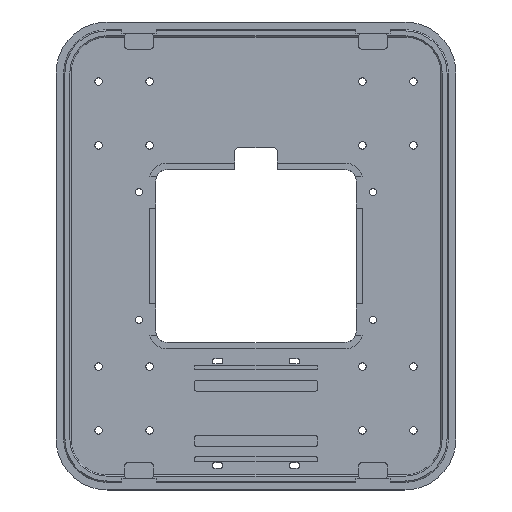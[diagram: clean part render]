
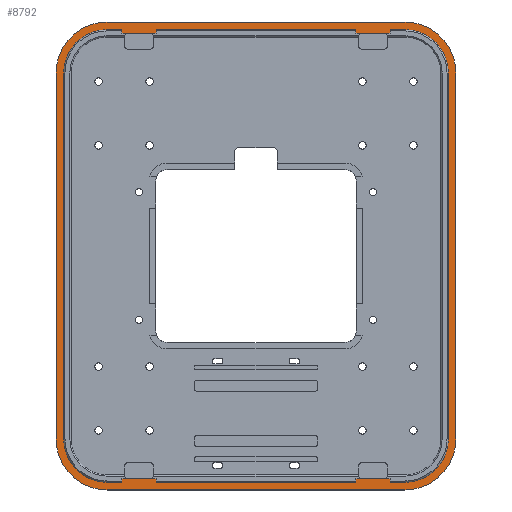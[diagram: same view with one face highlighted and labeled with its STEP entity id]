
A CAD part, top view. The second image highlights one B-rep face of the part: STEP entity #8792.
In plain terms, the highlighted planar face has unit normal (0, 0, 1).
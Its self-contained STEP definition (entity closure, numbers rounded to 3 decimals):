
#22 = VERTEX_POINT('',#23);
#23 = CARTESIAN_POINT('',(70.,-106.4,7.));
#31 = EDGE_CURVE('',#22,#32,#34,.T.);
#32 = VERTEX_POINT('',#33);
#33 = CARTESIAN_POINT('',(63.,-106.4,7.));
#34 = LINE('',#35,#36);
#35 = CARTESIAN_POINT('',(-92.2,-106.4,7.));
#36 = VECTOR('',#37,1.);
#37 = DIRECTION('',(-1.,0.,0.));
#62 = VERTEX_POINT('',#63);
#63 = CARTESIAN_POINT('',(90.4,-86.,7.));
#71 = EDGE_CURVE('',#22,#62,#72,.T.);
#72 = CIRCLE('',#73,20.4);
#73 = AXIS2_PLACEMENT_3D('',#74,#75,#76);
#74 = CARTESIAN_POINT('',(70.,-86.,7.));
#75 = DIRECTION('',(0.,0.,1.));
#76 = DIRECTION('',(1.,0.,0.));
#95 = EDGE_CURVE('',#62,#96,#98,.T.);
#96 = VERTEX_POINT('',#97);
#97 = CARTESIAN_POINT('',(90.4,86.,7.));
#98 = LINE('',#99,#100);
#99 = CARTESIAN_POINT('',(90.4,-108.2,7.));
#100 = VECTOR('',#101,1.);
#101 = DIRECTION('',(0.,1.,0.));
#126 = EDGE_CURVE('',#96,#127,#129,.T.);
#127 = VERTEX_POINT('',#128);
#128 = CARTESIAN_POINT('',(70.,106.4,7.));
#129 = CIRCLE('',#130,20.4);
#130 = AXIS2_PLACEMENT_3D('',#131,#132,#133);
#131 = CARTESIAN_POINT('',(70.,86.,7.));
#132 = DIRECTION('',(0.,0.,1.));
#133 = DIRECTION('',(1.,0.,0.));
#159 = EDGE_CURVE('',#127,#160,#162,.T.);
#160 = VERTEX_POINT('',#161);
#161 = CARTESIAN_POINT('',(63.,106.4,7.));
#162 = LINE('',#163,#164);
#163 = CARTESIAN_POINT('',(-92.2,106.4,7.));
#164 = VECTOR('',#165,1.);
#165 = DIRECTION('',(-1.,0.,0.));
#190 = VERTEX_POINT('',#191);
#191 = CARTESIAN_POINT('',(63.,104.8,7.));
#199 = EDGE_CURVE('',#190,#160,#200,.T.);
#200 = LINE('',#201,#202);
#201 = CARTESIAN_POINT('',(63.,104.8,7.));
#202 = VECTOR('',#203,1.);
#203 = DIRECTION('',(0.,1.,0.));
#260 = VERTEX_POINT('',#261);
#261 = CARTESIAN_POINT('',(63.,-104.8,7.));
#277 = EDGE_CURVE('',#32,#260,#278,.T.);
#278 = LINE('',#279,#280);
#279 = CARTESIAN_POINT('',(63.,-116.8,7.));
#280 = VECTOR('',#281,1.);
#281 = DIRECTION('',(0.,1.,0.));
#472 = VERTEX_POINT('',#473);
#473 = CARTESIAN_POINT('',(-47.,-104.8,7.));
#498 = VERTEX_POINT('',#499);
#499 = CARTESIAN_POINT('',(-47.,-106.4,7.));
#505 = EDGE_CURVE('',#498,#472,#506,.T.);
#506 = LINE('',#507,#508);
#507 = CARTESIAN_POINT('',(-47.,-116.8,7.));
#508 = VECTOR('',#509,1.);
#509 = DIRECTION('',(0.,1.,0.));
#522 = VERTEX_POINT('',#523);
#523 = CARTESIAN_POINT('',(47.,-106.4,7.));
#529 = EDGE_CURVE('',#522,#498,#530,.T.);
#530 = LINE('',#531,#532);
#531 = CARTESIAN_POINT('',(-92.2,-106.4,7.));
#532 = VECTOR('',#533,1.);
#533 = DIRECTION('',(-1.,0.,0.));
#618 = VERTEX_POINT('',#619);
#619 = CARTESIAN_POINT('',(47.,106.4,7.));
#625 = EDGE_CURVE('',#618,#626,#628,.T.);
#626 = VERTEX_POINT('',#627);
#627 = CARTESIAN_POINT('',(-47.,106.4,7.));
#628 = LINE('',#629,#630);
#629 = CARTESIAN_POINT('',(-92.2,106.4,7.));
#630 = VECTOR('',#631,1.);
#631 = DIRECTION('',(-1.,0.,0.));
#656 = VERTEX_POINT('',#657);
#657 = CARTESIAN_POINT('',(-47.,104.8,7.));
#665 = EDGE_CURVE('',#656,#626,#666,.T.);
#666 = LINE('',#667,#668);
#667 = CARTESIAN_POINT('',(-47.,104.8,7.));
#668 = VECTOR('',#669,1.);
#669 = DIRECTION('',(0.,1.,0.));
#695 = VERTEX_POINT('',#696);
#696 = CARTESIAN_POINT('',(47.,104.8,7.));
#704 = EDGE_CURVE('',#695,#618,#705,.T.);
#705 = LINE('',#706,#707);
#706 = CARTESIAN_POINT('',(47.,104.8,7.));
#707 = VECTOR('',#708,1.);
#708 = DIRECTION('',(0.,1.,0.));
#804 = VERTEX_POINT('',#805);
#805 = CARTESIAN_POINT('',(-63.,106.4,7.));
#811 = EDGE_CURVE('',#804,#812,#814,.T.);
#812 = VERTEX_POINT('',#813);
#813 = CARTESIAN_POINT('',(-70.,106.4,7.));
#814 = LINE('',#815,#816);
#815 = CARTESIAN_POINT('',(-92.2,106.4,7.));
#816 = VECTOR('',#817,1.);
#817 = DIRECTION('',(-1.,0.,0.));
#842 = VERTEX_POINT('',#843);
#843 = CARTESIAN_POINT('',(-90.4,86.,7.));
#851 = EDGE_CURVE('',#812,#842,#852,.T.);
#852 = CIRCLE('',#853,20.4);
#853 = AXIS2_PLACEMENT_3D('',#854,#855,#856);
#854 = CARTESIAN_POINT('',(-70.,86.,7.));
#855 = DIRECTION('',(0.,0.,1.));
#856 = DIRECTION('',(-1.,0.,0.));
#875 = VERTEX_POINT('',#876);
#876 = CARTESIAN_POINT('',(-90.4,-86.,7.));
#884 = EDGE_CURVE('',#875,#842,#885,.T.);
#885 = LINE('',#886,#887);
#886 = CARTESIAN_POINT('',(-90.4,-108.2,7.));
#887 = VECTOR('',#888,1.);
#888 = DIRECTION('',(0.,1.,0.));
#906 = EDGE_CURVE('',#875,#907,#909,.T.);
#907 = VERTEX_POINT('',#908);
#908 = CARTESIAN_POINT('',(-70.,-106.4,7.));
#909 = CIRCLE('',#910,20.4);
#910 = AXIS2_PLACEMENT_3D('',#911,#912,#913);
#911 = CARTESIAN_POINT('',(-70.,-86.,7.));
#912 = DIRECTION('',(0.,0.,1.));
#913 = DIRECTION('',(-1.,0.,0.));
#941 = VERTEX_POINT('',#942);
#942 = CARTESIAN_POINT('',(-63.,-106.4,7.));
#948 = EDGE_CURVE('',#941,#907,#949,.T.);
#949 = LINE('',#950,#951);
#950 = CARTESIAN_POINT('',(-92.2,-106.4,7.));
#951 = VECTOR('',#952,1.);
#952 = DIRECTION('',(-1.,0.,0.));
#970 = VERTEX_POINT('',#971);
#971 = CARTESIAN_POINT('',(-63.,104.8,7.));
#979 = EDGE_CURVE('',#970,#804,#980,.T.);
#980 = LINE('',#981,#982);
#981 = CARTESIAN_POINT('',(-63.,104.8,7.));
#982 = VECTOR('',#983,1.);
#983 = DIRECTION('',(0.,1.,0.));
#1107 = VERTEX_POINT('',#1108);
#1108 = CARTESIAN_POINT('',(-63.,-104.8,7.));
#1131 = EDGE_CURVE('',#941,#1107,#1132,.T.);
#1132 = LINE('',#1133,#1134);
#1133 = CARTESIAN_POINT('',(-63.,-116.8,7.));
#1134 = VECTOR('',#1135,1.);
#1135 = DIRECTION('',(0.,1.,0.));
#7597 = VERTEX_POINT('',#7598);
#7598 = CARTESIAN_POINT('',(47.,-104.8,7.));
#7607 = EDGE_CURVE('',#522,#7597,#7608,.T.);
#7608 = LINE('',#7609,#7610);
#7609 = CARTESIAN_POINT('',(47.,-116.8,7.));
#7610 = VECTOR('',#7611,1.);
#7611 = DIRECTION('',(0.,1.,0.));
#8767 = VERTEX_POINT('',#8768);
#8768 = CARTESIAN_POINT('',(-94.,-86.,7.));
#8774 = EDGE_CURVE('',#8767,#8775,#8777,.T.);
#8775 = VERTEX_POINT('',#8776);
#8776 = CARTESIAN_POINT('',(-94.,86.,7.));
#8777 = LINE('',#8778,#8779);
#8778 = CARTESIAN_POINT('',(-94.,-110.,7.));
#8779 = VECTOR('',#8780,1.);
#8780 = DIRECTION('',(0.,1.,0.));
#8792 = ADVANCED_FACE('',(#8793,#8854),#8900,.T.);
#8793 = FACE_BOUND('',#8794,.T.);
#8794 = EDGE_LOOP('',(#8795,#8796,#8805,#8813,#8822,#8830,#8839,#8847));
#8795 = ORIENTED_EDGE('',*,*,#8774,.F.);
#8796 = ORIENTED_EDGE('',*,*,#8797,.T.);
#8797 = EDGE_CURVE('',#8767,#8798,#8800,.T.);
#8798 = VERTEX_POINT('',#8799);
#8799 = CARTESIAN_POINT('',(-70.,-110.,7.));
#8800 = CIRCLE('',#8801,24.);
#8801 = AXIS2_PLACEMENT_3D('',#8802,#8803,#8804);
#8802 = CARTESIAN_POINT('',(-70.,-86.,7.));
#8803 = DIRECTION('',(-0.,0.,1.));
#8804 = DIRECTION('',(0.,-1.,0.));
#8805 = ORIENTED_EDGE('',*,*,#8806,.T.);
#8806 = EDGE_CURVE('',#8798,#8807,#8809,.T.);
#8807 = VERTEX_POINT('',#8808);
#8808 = CARTESIAN_POINT('',(70.,-110.,7.));
#8809 = LINE('',#8810,#8811);
#8810 = CARTESIAN_POINT('',(-94.,-110.,7.));
#8811 = VECTOR('',#8812,1.);
#8812 = DIRECTION('',(1.,0.,0.));
#8813 = ORIENTED_EDGE('',*,*,#8814,.F.);
#8814 = EDGE_CURVE('',#8815,#8807,#8817,.T.);
#8815 = VERTEX_POINT('',#8816);
#8816 = CARTESIAN_POINT('',(94.,-86.,7.));
#8817 = CIRCLE('',#8818,24.);
#8818 = AXIS2_PLACEMENT_3D('',#8819,#8820,#8821);
#8819 = CARTESIAN_POINT('',(70.,-86.,7.));
#8820 = DIRECTION('',(-0.,-0.,-1.));
#8821 = DIRECTION('',(0.,-1.,0.));
#8822 = ORIENTED_EDGE('',*,*,#8823,.T.);
#8823 = EDGE_CURVE('',#8815,#8824,#8826,.T.);
#8824 = VERTEX_POINT('',#8825);
#8825 = CARTESIAN_POINT('',(94.,86.,7.));
#8826 = LINE('',#8827,#8828);
#8827 = CARTESIAN_POINT('',(94.,-110.,7.));
#8828 = VECTOR('',#8829,1.);
#8829 = DIRECTION('',(0.,1.,0.));
#8830 = ORIENTED_EDGE('',*,*,#8831,.T.);
#8831 = EDGE_CURVE('',#8824,#8832,#8834,.T.);
#8832 = VERTEX_POINT('',#8833);
#8833 = CARTESIAN_POINT('',(70.,110.,7.));
#8834 = CIRCLE('',#8835,24.);
#8835 = AXIS2_PLACEMENT_3D('',#8836,#8837,#8838);
#8836 = CARTESIAN_POINT('',(70.,86.,7.));
#8837 = DIRECTION('',(-0.,0.,1.));
#8838 = DIRECTION('',(0.,-1.,0.));
#8839 = ORIENTED_EDGE('',*,*,#8840,.F.);
#8840 = EDGE_CURVE('',#8841,#8832,#8843,.T.);
#8841 = VERTEX_POINT('',#8842);
#8842 = CARTESIAN_POINT('',(-70.,110.,7.));
#8843 = LINE('',#8844,#8845);
#8844 = CARTESIAN_POINT('',(-94.,110.,7.));
#8845 = VECTOR('',#8846,1.);
#8846 = DIRECTION('',(1.,0.,0.));
#8847 = ORIENTED_EDGE('',*,*,#8848,.F.);
#8848 = EDGE_CURVE('',#8775,#8841,#8849,.T.);
#8849 = CIRCLE('',#8850,24.);
#8850 = AXIS2_PLACEMENT_3D('',#8851,#8852,#8853);
#8851 = CARTESIAN_POINT('',(-70.,86.,7.));
#8852 = DIRECTION('',(-0.,-0.,-1.));
#8853 = DIRECTION('',(0.,-1.,0.));
#8854 = FACE_BOUND('',#8855,.T.);
#8855 = EDGE_LOOP('',(#8856,#8857,#8858,#8864,#8865,#8866,#8867,#8873,
    #8874,#8875,#8876,#8877,#8878,#8879,#8880,#8886,#8887,#8888,#8889,
    #8895,#8896,#8897,#8898,#8899));
#8856 = ORIENTED_EDGE('',*,*,#811,.F.);
#8857 = ORIENTED_EDGE('',*,*,#979,.F.);
#8858 = ORIENTED_EDGE('',*,*,#8859,.T.);
#8859 = EDGE_CURVE('',#970,#656,#8860,.T.);
#8860 = LINE('',#8861,#8862);
#8861 = CARTESIAN_POINT('',(-63.,104.8,7.));
#8862 = VECTOR('',#8863,1.);
#8863 = DIRECTION('',(1.,0.,0.));
#8864 = ORIENTED_EDGE('',*,*,#665,.T.);
#8865 = ORIENTED_EDGE('',*,*,#625,.F.);
#8866 = ORIENTED_EDGE('',*,*,#704,.F.);
#8867 = ORIENTED_EDGE('',*,*,#8868,.T.);
#8868 = EDGE_CURVE('',#695,#190,#8869,.T.);
#8869 = LINE('',#8870,#8871);
#8870 = CARTESIAN_POINT('',(47.,104.8,7.));
#8871 = VECTOR('',#8872,1.);
#8872 = DIRECTION('',(1.,0.,0.));
#8873 = ORIENTED_EDGE('',*,*,#199,.T.);
#8874 = ORIENTED_EDGE('',*,*,#159,.F.);
#8875 = ORIENTED_EDGE('',*,*,#126,.F.);
#8876 = ORIENTED_EDGE('',*,*,#95,.F.);
#8877 = ORIENTED_EDGE('',*,*,#71,.F.);
#8878 = ORIENTED_EDGE('',*,*,#31,.T.);
#8879 = ORIENTED_EDGE('',*,*,#277,.T.);
#8880 = ORIENTED_EDGE('',*,*,#8881,.F.);
#8881 = EDGE_CURVE('',#7597,#260,#8882,.T.);
#8882 = LINE('',#8883,#8884);
#8883 = CARTESIAN_POINT('',(47.,-104.8,7.));
#8884 = VECTOR('',#8885,1.);
#8885 = DIRECTION('',(1.,0.,0.));
#8886 = ORIENTED_EDGE('',*,*,#7607,.F.);
#8887 = ORIENTED_EDGE('',*,*,#529,.T.);
#8888 = ORIENTED_EDGE('',*,*,#505,.T.);
#8889 = ORIENTED_EDGE('',*,*,#8890,.F.);
#8890 = EDGE_CURVE('',#1107,#472,#8891,.T.);
#8891 = LINE('',#8892,#8893);
#8892 = CARTESIAN_POINT('',(-63.,-104.8,7.));
#8893 = VECTOR('',#8894,1.);
#8894 = DIRECTION('',(1.,0.,0.));
#8895 = ORIENTED_EDGE('',*,*,#1131,.F.);
#8896 = ORIENTED_EDGE('',*,*,#948,.T.);
#8897 = ORIENTED_EDGE('',*,*,#906,.F.);
#8898 = ORIENTED_EDGE('',*,*,#884,.T.);
#8899 = ORIENTED_EDGE('',*,*,#851,.F.);
#8900 = PLANE('',#8901);
#8901 = AXIS2_PLACEMENT_3D('',#8902,#8903,#8904);
#8902 = CARTESIAN_POINT('',(-94.,-110.,7.));
#8903 = DIRECTION('',(0.,0.,1.));
#8904 = DIRECTION('',(1.,0.,0.));
